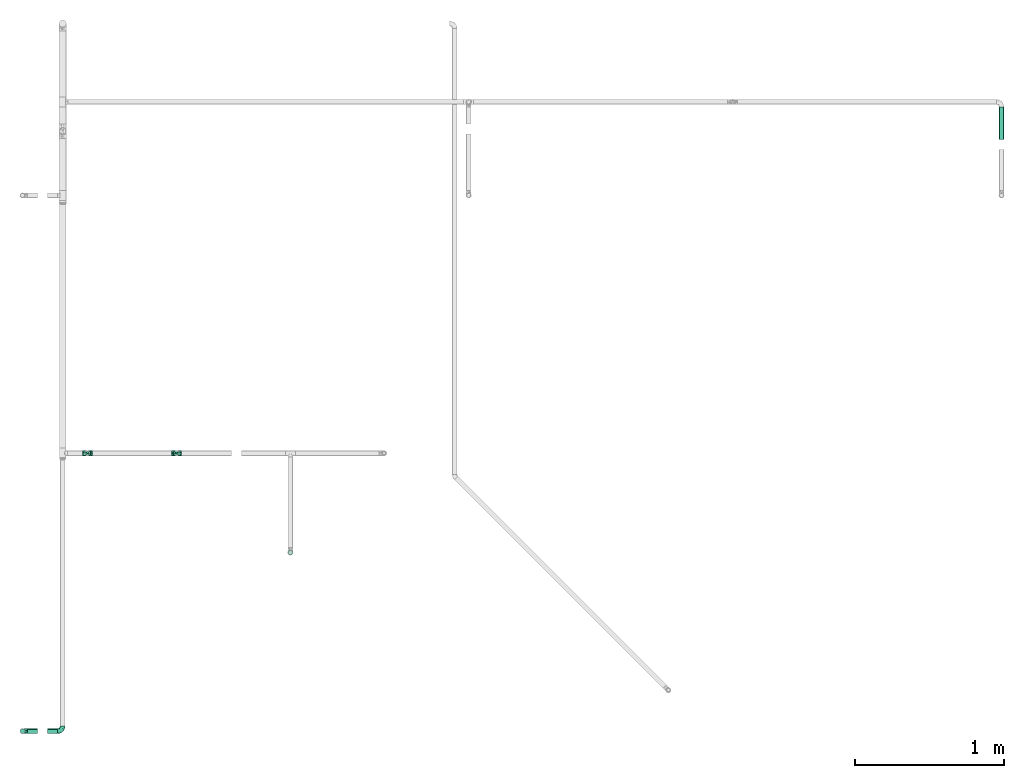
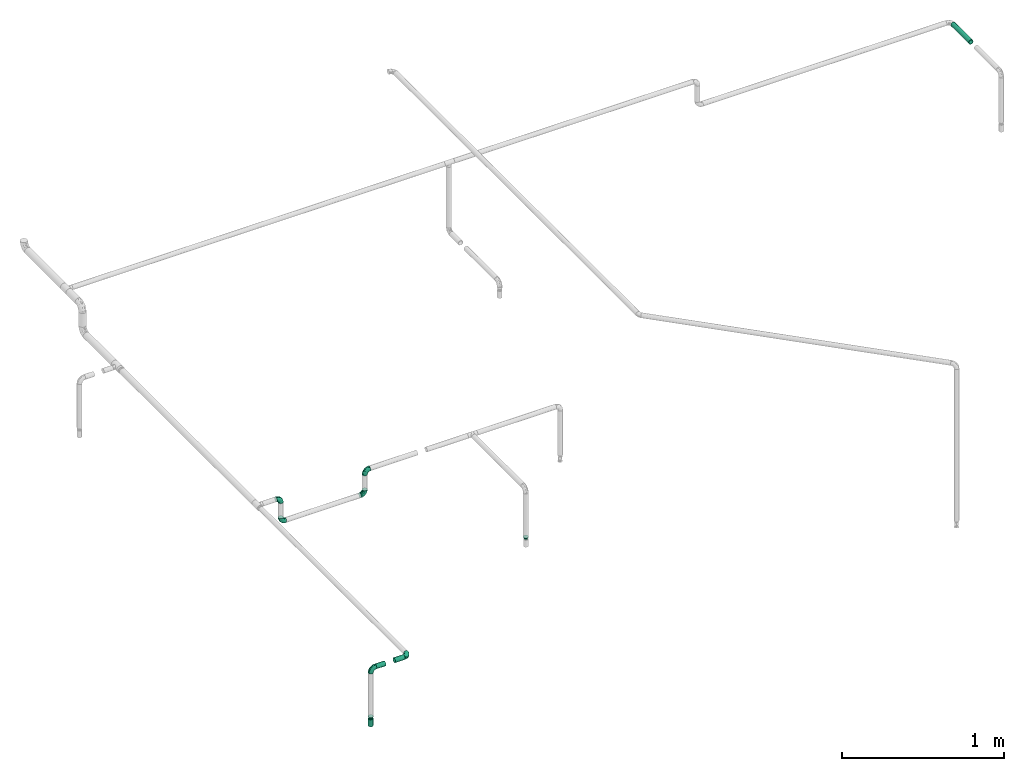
# One storey, part 7 of 17: 8 flow fittings, 3 flow segments, 1 flow terminal.
"""IFC2X3 building model written with IfcOpenShell, lengths in millimetres."""

from ifc_helpers import new_model, entity, si_unit, converted_unit, derived_unit, direction, frame, origin_with_axes, origin_2d_with_axis, place, context, subcontext, project, spatial, hollow_circle, extrude, open_shell, surface_model, source, transform, mapped, type_object, element, save


model = new_model("IFC2X3")

# Units and contexts
model_context = context("Model", 3, precision=0.01, world=frame((0.0, 4.29681676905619e-09, 0.0)), true_north=direction((4.01073788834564e-13, 1.0)))
plan_context = context("Plan", 3, precision=0.01, world=frame((0.0, 4.29681676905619e-09, 0.0)), true_north=direction((4.01073788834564e-13, 1.0)))
body_context = subcontext(model_context, "Body", "Model", "MODEL_VIEW")
ifc_project = project(units=[converted_unit("PLANEANGLEUNIT", "DEGREE", entity("IfcPositiveLengthMeasure", 0.0174532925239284), si_unit("PLANEANGLEUNIT", "RADIAN"), dimensions=[0, 0, 0, 0, 0, 0, 0]), si_unit("AREAUNIT", "SQUARE_METRE"), si_unit("LENGTHUNIT", "METRE", prefix="MILLI"), si_unit("MASSUNIT", "GRAM", prefix="KILO"), si_unit("POWERUNIT", "WATT"), si_unit("PRESSUREUNIT", "PASCAL", prefix="KILO"), si_unit("FORCEUNIT", "NEWTON", prefix="KILO"), si_unit("ELECTRICVOLTAGEUNIT", "VOLT"), si_unit("ELECTRICCURRENTUNIT", "AMPERE"), si_unit("THERMODYNAMICTEMPERATUREUNIT", "DEGREE_CELSIUS"), si_unit("TIMEUNIT", "SECOND"), si_unit("VOLUMEUNIT", "CUBIC_METRE"), derived_unit("LINEARVELOCITYUNIT", [(si_unit("LENGTHUNIT", "METRE"), 1), (si_unit("TIMEUNIT", "SECOND"), -1)]), derived_unit("VOLUMETRICFLOWRATEUNIT", [(si_unit("VOLUMEUNIT", "CUBIC_METRE"), 1), (si_unit("TIMEUNIT", "SECOND"), -1)]), derived_unit("THERMALTRANSMITTANCEUNIT", [(si_unit("POWERUNIT", "WATT"), 1), (si_unit("THERMODYNAMICTEMPERATUREUNIT", "KELVIN"), -1), (si_unit("AREAUNIT", "SQUARE_METRE"), -1)]), derived_unit("SOUNDPRESSUREUNIT", [(si_unit("PRESSUREUNIT", "PASCAL"), 1)])], contexts=[model_context, plan_context])

# Site, building, storey
site_placement = place(None, frame((0.0, -4.29681676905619e-09, 0.0), z_axis=(0.0, 0.0, 1.0), x_axis=(1.0, 0.0, 0.0)))
site = spatial("IfcSite", under=ifc_project, at=site_placement, CompositionType="ELEMENT")
building_placement = place(site_placement, frame((0.0, 4.29681676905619e-09, 0.0), z_axis=(0.0, 0.0, 1.0), x_axis=(1.0, 0.0, 0.0)))
building = spatial("IfcBuilding", under=site, at=building_placement, Name="mc-building", CompositionType="ELEMENT")
storey_placement = place(building_placement, frame((0.0, 0.0, 204000.0), z_axis=(0.0, 0.0, 1.0), x_axis=(1.0, 0.0, 0.0)))
storey = spatial("IfcBuildingStorey", under=building, at=storey_placement, Name="Nivå D", CompositionType="ELEMENT", Elevation=204000.0)

# Flow fittings
pipe_fitting_type_1 = type_object("IfcPipeFittingType", Name="magi_pipe_fe_elbow_short_001", PredefinedType="BEND")
shared_shape_1 = source(origin_with_axes(), body_context, "Body", "SurfaceModel", [
    surface_model("IfcShellBasedSurfaceModel", [(-33.8, 8.45, -14.63583), (-33.8, 4.37404, -16.32415), (-33.8, 11.9501, -11.9501), (-33.8, -11.9501, -11.9501), (-33.8, -14.63583, -8.45), (-33.8, -8.45, -14.63583), (-33.8, 0.0, -16.9), (-33.8, -4.37404, -16.32415), (-33.8, -4.37404, 16.32415), (-33.8, 0.0, 16.9), (-33.8, -8.45, 14.63583), (-33.8, 16.32415, -4.37404), (-33.8, 14.63583, -8.45), (-33.8, -16.32415, -4.37404), (-33.8, -16.9, 0.0), (-33.8, -16.32415, 4.37404), (-33.8, 11.9501, 11.9501), (-33.8, 14.63583, 8.45), (-33.8, 16.32415, 4.37404), (-33.8, 4.37404, 16.32415), (-33.8, 8.45, 14.63583), (-33.8, -14.63583, 8.45), (-33.8, -11.9501, 11.9501), (-33.8, 16.9, 0.0), (-11.9501, 33.8, -11.9501), (0.0, 33.8, -16.9), (-4.37404, 33.8, -16.32415), (-8.45, 33.8, -14.63583), (-14.63583, 33.8, -8.45), (-16.32415, 33.8, -4.37404), (14.63583, 33.8, -8.45), (8.45, 33.8, 14.63583), (16.32415, 33.8, -4.37404), (8.45, 33.8, -14.63583), (11.9501, 33.8, -11.9501), (4.37404, 33.8, -16.32415), (16.32415, 33.8, 4.37404), (16.9, 33.8, 0.0), (-11.9501, 33.8, 11.9501), (-16.32415, 33.8, 4.37404), (-14.63583, 33.8, 8.45), (-8.45, 33.8, 14.63583), (-4.37404, 33.8, 16.32415), (11.9501, 33.8, 11.9501), (14.63583, 33.8, 8.45), (0.0, 33.8, 16.9), (4.37404, 33.8, 16.32415), (-16.9, 33.8, 0.0), (-24.79389, -13.12945, 9.48721), (-22.19287, -9.75018, 12.59315), (-24.09897, -14.97035, 0.0), (-14.93934, -10.76256, 8.5297), (-22.46095, -14.75051, 5.27077), (14.75051, 22.46094, 5.27077), (11.9251, 13.23888, 4.33236), (13.04069, 14.39795, 0.0), (7.71387, 13.68847, 11.55891), (9.75018, 22.19287, 12.59315), (4.10169, 13.0571, 14.04018), (-24.84007, -6.39063, 15.2048), (-25.81779, -2.23879, 16.61097), (-23.66549, 2.59054, 16.87119), (-26.50418, 14.06512, 11.08152), (-24.21253, 17.66365, 7.72657), (-29.58514, 15.86957, 7.00283), (-6.17382, -7.5455, 0.0), (-13.23888, -11.9251, 4.33236), (-14.39795, -13.04069, 0.0), (-17.81434, 18.87373, 11.97104), (-6.30846, 29.15138, 15.82987), (-2.31622, 25.28002, 16.85849), (-29.23923, 10.23435, 13.77053), (-1.45439, -2.85688, 7.61475), (-0.28326, 0.34872, 10.09509), (-5.74484, -4.04709, 10.4122), (-4.41137, 11.31918, 16.59407), (-8.39727, 3.10034, 15.7812), (-1.72649, 9.1306, 15.53089), (-17.39909, 24.75344, 7.64977), (-26.19233, 20.0512, 0.0), (-28.14518, 17.29657, 4.25857), (-26.05147, 6.6281, 15.96447), (-5.87354, 16.61944, 16.86968), (-12.51807, 12.51807, 16.48937), (-10.06312, 7.38516, 16.81295), (-3.01882, 3.01882, 13.81718), (-13.0571, -4.10169, 14.04018), (-16.82553, -0.15166, 16.38038), (10.76256, 14.93934, 8.5297), (13.12945, 24.79389, 9.48721), (6.39063, 24.84007, 15.2048), (2.23879, 25.81779, 16.61097), (-13.68847, -7.71387, 11.55891), (14.97035, 24.09897, 0.0), (-7.30894, 22.89991, 16.09489), (-10.67958, 26.17414, 14.008), (-12.78295, 18.26924, 15.06066), (-13.88562, 22.45231, 12.93244), (-18.04944, 15.16501, 14.04434), (-23.11658, 20.08178, 4.02986), (-21.84989, 21.84989, 0.0), (-18.55817, 25.48277, 3.93065), (-13.95142, 26.94732, 11.03289), (-18.57098, 7.23906, 16.59756), (-16.58335, 4.14122, 16.89279), (-17.96666, 11.46709, 15.63151), (-9.84453, 17.54304, 16.18938), (0.15166, 16.82553, 16.38038), (-23.27207, 11.47201, 14.23154), (3.84842, 5.86994, 10.70473), (-8.0212, -7.54413, 7.93275), (1.00345, -2.19508, 4.57414), (5.13203, 3.01004, 5.90201), (5.24161, 1.7543, 2.53265), (8.70457, 7.04947, 3.99182), (-20.0512, 26.19233, 0.0), (8.4852, 8.76699, 7.09296), (-4.55488, -6.72064, 4.90681), (2.05031, -2.05031, 0.0), (7.5455, 6.17382, 0.0), (-26.75399, 2.1369, -16.845), (-14.61995, 24.73803, -11.27736), (-28.45274, -13.45335, -9.81895), (-26.00469, 6.63555, -15.96645), (-23.06726, 20.04573, -4.26202), (-13.80647, -4.26506, -14.17873), (-14.67501, -0.21081, -16.07388), (-6.7902, -0.2828, -13.8478), (-24.53586, 11.08096, -14.13417), (-26.72048, 14.00837, -11.05776), (10.0967, 24.44989, -12.75976), (5.83237, 21.40218, -15.03047), (6.66249, 28.54238, -15.38093), (-20.38182, 15.48705, -12.74596), (12.53268, 21.23441, -9.15363), (12.54494, 15.67504, -5.54878), (9.7522, 12.89279, -8.66343), (-15.65186, 19.64213, -13.01327), (-12.03528, 20.66498, -14.67665), (-15.61907, 15.61906, -14.83879), (-25.56551, -15.26206, 0.0), (-24.65452, -15.12934, -5.50955), (13.45335, 28.45274, -9.81895), (15.12934, 24.65452, -5.50955), (-7.35442, -8.31014, -5.65563), (-15.67504, -12.54494, -5.54878), (-24.44989, -10.0967, -12.75976), (0.16522, 0.41303, -9.71728), (-5.70658, -5.33066, -8.89288), (-5.13869, -2.37198, -11.53565), (-21.23441, -12.53268, -9.15363), (0.71146, 7.93863, -14.09382), (0.21081, 14.67501, -16.07388), (3.49291, 14.42772, -14.76381), (-24.89911, -2.13088, -16.591), (-28.54238, -6.66249, -15.38093), (-18.44386, -7.71663, -13.26957), (2.13088, 24.89911, -16.591), (-28.64342, 17.44413, -2.89318), (1.70017, -1.28722, -5.09504), (-16.57067, 26.81947, -7.36596), (-17.69055, 27.4263, -3.76405), (-12.89279, -9.7522, -8.66343), (-5.96611, 5.96611, -15.95814), (-20.53709, 20.09345, -8.28985), (-2.1369, 26.75399, -16.845), (-6.89872, 24.58781, -16.02578), (-10.60739, 26.53157, -13.98044), (-21.40218, -5.83237, -15.03047), (2.93192, 5.89627, -11.55917), (6.89393, 12.61842, -11.82233), (5.58056, 5.95325, -8.79455), (-3.99512, 18.61798, -16.89635), (8.31014, 7.35442, -5.65563), (-9.1383, 9.86148, -16.89041), (-9.99983, 16.02119, -16.39699), (-16.68576, 9.78031, -16.34199), (-27.01915, 16.61158, -7.12979), (15.26206, 25.56551, 0.0), (-18.61798, 3.99512, -16.89635), (-19.37495, 27.82495, 0.0), (-12.61842, -6.89393, -11.82233), (-18.84705, 19.14018, -10.96545)], [open_shell([[[0, 1, 2]], [[3, 4, 5]], [[6, 7, 5]], [[8, 9, 10]], [[1, 6, 2]], [[11, 12, 2]], [[4, 2, 6]], [[2, 13, 10]], [[5, 4, 6]], [[2, 4, 13]], [[14, 15, 13]], [[11, 2, 16]], [[11, 17, 18]], [[11, 16, 17]], [[19, 20, 16]], [[16, 2, 10]], [[19, 16, 10]], [[21, 22, 15]], [[22, 13, 15]], [[22, 10, 13]], [[10, 9, 19]], [[11, 18, 23]], [[24, 25, 26]], [[24, 26, 27]], [[24, 28, 29]], [[25, 24, 30]], [[31, 32, 24]], [[33, 30, 34]], [[33, 35, 25]], [[25, 30, 33]], [[32, 30, 24]], [[32, 36, 37]], [[38, 24, 29]], [[39, 40, 29]], [[40, 38, 29]], [[38, 41, 42]], [[38, 31, 24]], [[31, 38, 42]], [[36, 43, 44]], [[36, 32, 43]], [[31, 45, 46]], [[32, 31, 43]], [[42, 45, 31]], [[39, 29, 47]], [[22, 48, 49]], [[15, 14, 50]], [[51, 48, 52]], [[53, 54, 55]], [[48, 22, 21]], [[15, 52, 21]], [[56, 57, 58]], [[49, 10, 22]], [[49, 59, 10]], [[9, 60, 61]], [[62, 63, 64]], [[65, 66, 67]], [[57, 43, 31]], [[62, 68, 63]], [[42, 69, 70]], [[20, 71, 16]], [[8, 60, 9]], [[72, 73, 74]], [[75, 76, 77]], [[16, 62, 17]], [[40, 39, 78]], [[79, 23, 80]], [[64, 18, 17]], [[9, 61, 19]], [[19, 81, 20]], [[82, 83, 84]], [[74, 85, 86]], [[59, 86, 87]], [[88, 89, 57]], [[90, 31, 46]], [[44, 53, 36]], [[46, 45, 91]], [[54, 53, 88]], [[44, 89, 53]], [[92, 86, 49]], [[89, 44, 43]], [[10, 59, 8]], [[53, 55, 93]], [[93, 36, 53]], [[66, 52, 67]], [[94, 82, 70]], [[95, 96, 94]], [[97, 98, 96]], [[79, 99, 100]], [[41, 38, 95]], [[101, 100, 99]], [[68, 78, 63]], [[42, 41, 69]], [[23, 18, 80]], [[95, 94, 69]], [[78, 101, 99]], [[38, 102, 95]], [[70, 45, 42]], [[97, 95, 102]], [[15, 50, 52]], [[90, 57, 31]], [[57, 90, 58]], [[81, 19, 61]], [[103, 104, 84]], [[105, 81, 103]], [[38, 40, 102]], [[106, 96, 83]], [[94, 106, 82]], [[91, 70, 107]], [[71, 62, 16]], [[62, 108, 98]], [[86, 59, 49]], [[67, 52, 50]], [[60, 59, 87]], [[92, 49, 51]], [[86, 85, 76]], [[91, 90, 46]], [[37, 36, 93]], [[107, 77, 58]], [[107, 58, 90]], [[58, 85, 109]], [[110, 74, 92]], [[72, 74, 110]], [[66, 51, 52]], [[72, 111, 112]], [[113, 114, 112]], [[56, 88, 57]], [[52, 48, 21]], [[49, 48, 51]], [[57, 89, 43]], [[53, 89, 88]], [[103, 81, 61]], [[71, 81, 108]], [[18, 64, 80]], [[63, 78, 99]], [[47, 115, 101]], [[101, 115, 100]], [[40, 78, 102]], [[68, 102, 78]], [[97, 96, 95]], [[105, 98, 108]], [[103, 84, 83]], [[107, 70, 82]], [[76, 84, 87]], [[82, 84, 75]], [[70, 91, 45]], [[90, 91, 107]], [[59, 60, 8]], [[61, 60, 87]], [[73, 85, 74]], [[109, 112, 116]], [[103, 61, 104]], [[105, 103, 83]], [[96, 105, 83]], [[81, 105, 108]], [[96, 98, 105]], [[62, 98, 68]], [[61, 87, 104]], [[87, 84, 104]], [[86, 76, 87]], [[77, 76, 85]], [[58, 77, 85]], [[75, 77, 107]], [[82, 75, 107]], [[76, 75, 84]], [[81, 71, 20]], [[62, 71, 108]], [[95, 69, 41]], [[70, 69, 94]], [[62, 64, 17]], [[80, 63, 99]], [[63, 80, 64]], [[80, 99, 79]], [[66, 65, 117]], [[110, 66, 117]], [[112, 114, 116]], [[118, 117, 65]], [[110, 92, 51]], [[112, 111, 113]], [[119, 55, 54]], [[74, 86, 92]], [[58, 109, 56]], [[116, 56, 109]], [[66, 110, 51]], [[72, 110, 117]], [[111, 72, 117]], [[73, 112, 109]], [[117, 118, 111]], [[113, 111, 118]], [[118, 119, 113]], [[114, 119, 54]], [[119, 114, 113]], [[116, 54, 88]], [[54, 116, 114]], [[116, 88, 56]], [[112, 73, 72]], [[85, 73, 109]], [[78, 39, 101]], [[47, 101, 39]], [[102, 68, 97]], [[97, 68, 98]], [[82, 106, 83]], [[94, 96, 106]], [[1, 120, 6]], [[28, 24, 121]], [[3, 122, 4]], [[0, 123, 1]], [[100, 124, 79]], [[125, 126, 127]], [[128, 2, 129]], [[130, 131, 132]], [[128, 129, 133]], [[134, 135, 136]], [[137, 138, 139]], [[128, 0, 2]], [[67, 140, 141]], [[134, 142, 143]], [[141, 13, 4]], [[144, 65, 145]], [[146, 3, 5]], [[147, 148, 149]], [[145, 141, 150]], [[151, 152, 153]], [[154, 7, 6]], [[5, 155, 146]], [[150, 146, 156]], [[155, 5, 7]], [[143, 135, 134]], [[35, 157, 25]], [[23, 79, 158]], [[148, 159, 144]], [[160, 161, 29]], [[145, 162, 144]], [[163, 152, 151]], [[29, 28, 160]], [[121, 164, 160]], [[33, 34, 130]], [[25, 165, 26]], [[26, 165, 166]], [[142, 34, 30]], [[24, 27, 167]], [[124, 161, 164]], [[157, 35, 132]], [[155, 154, 168]], [[123, 0, 128]], [[169, 170, 171]], [[172, 157, 152]], [[26, 166, 27]], [[132, 35, 33]], [[142, 130, 34]], [[168, 154, 126]], [[136, 135, 173]], [[133, 137, 139]], [[2, 12, 129]], [[170, 131, 130]], [[30, 32, 143]], [[172, 174, 175]], [[176, 123, 128]], [[158, 177, 11]], [[135, 55, 119]], [[167, 27, 166]], [[175, 166, 172]], [[137, 167, 138]], [[122, 141, 4]], [[140, 14, 13]], [[32, 37, 178]], [[170, 130, 134]], [[152, 157, 131]], [[165, 157, 172]], [[153, 170, 151]], [[152, 163, 174]], [[168, 125, 156]], [[122, 146, 150]], [[120, 154, 6]], [[179, 174, 126]], [[179, 126, 154]], [[126, 163, 127]], [[162, 145, 150]], [[140, 13, 141]], [[32, 178, 143]], [[55, 143, 178]], [[177, 129, 12]], [[128, 133, 139]], [[176, 128, 139]], [[120, 123, 179]], [[121, 160, 28]], [[161, 100, 180]], [[166, 175, 138]], [[121, 24, 167]], [[161, 47, 29]], [[79, 124, 158]], [[124, 164, 177]], [[161, 124, 100]], [[136, 171, 170]], [[127, 163, 151]], [[147, 171, 159]], [[148, 144, 162]], [[127, 151, 169]], [[127, 181, 125]], [[129, 177, 164]], [[12, 11, 177]], [[159, 65, 144]], [[67, 141, 145]], [[143, 55, 135]], [[135, 119, 173]], [[123, 120, 1]], [[154, 120, 179]], [[157, 165, 25]], [[166, 165, 172]], [[172, 152, 174]], [[176, 139, 175]], [[126, 174, 163]], [[176, 174, 179]], [[174, 176, 175]], [[123, 176, 179]], [[150, 181, 162]], [[127, 149, 181]], [[181, 148, 162]], [[159, 148, 147]], [[171, 136, 173]], [[170, 134, 136]], [[159, 171, 173]], [[171, 147, 169]], [[169, 147, 149]], [[151, 170, 169]], [[164, 182, 129]], [[182, 121, 137]], [[181, 149, 148]], [[169, 149, 127]], [[182, 137, 133]], [[167, 137, 121]], [[166, 138, 167]], [[175, 139, 138]], [[129, 182, 133]], [[121, 182, 164]], [[161, 160, 164]], [[47, 161, 180]], [[177, 158, 124]], [[23, 158, 11]], [[130, 132, 33]], [[157, 132, 131]], [[143, 142, 30]], [[130, 142, 134]], [[154, 155, 7]], [[146, 155, 168]], [[146, 122, 3]], [[141, 122, 150]], [[152, 131, 153]], [[159, 119, 118]], [[67, 145, 65]], [[170, 153, 131]], [[119, 159, 173]], [[159, 118, 65]], [[156, 125, 181]], [[126, 125, 168]], [[150, 156, 181]], [[168, 156, 146]]])]),
])
for number, where, z_axis, x_axis, name in (
    (1, (595974.5, 400450.01942, 2780.0), (0.0, 1.0, 0.0), (0.0, 0.0, 1.0), "magi_pipe_fe_elbow_short_001"),
    (2, (596244.66498, 400450.01942, 2780.0), (0.0, 0.0, 1.0), (1.0, 0.0, 0.0), "magi_pipe_fe_elbow_short_001"),
    (3, (596410.01498, 402317.53152, 2780.0), (0.0, 1.0, 0.0), (1.0, 0.0, 0.0), "magi_pipe_fe_elbow_short_001"),
    (4, (596410.01498, 402317.53152, 2600.0), (0.0, -1.0, 0.0), (0.0, 0.0, -1.0), "magi_pipe_fe_elbow_short_001"),
    (5, (597010.01498, 402317.53152, 2600.0), (0.0, 1.0, 0.0), (0.0, 0.0, -1.0), "magi_pipe_fe_elbow_short_001"),
    (6, (597010.01498, 402317.53152, 2780.0), (0.0, -1.0, 0.0), (-1.0, 0.0, 0.0), "magi_pipe_fe_elbow_short_001"),
):
    element("IfcFlowFitting", number, at=place(storey_placement, frame(where, z_axis=z_axis, x_axis=x_axis)), inside=storey, type_object=pipe_fitting_type_1, Name=name, context=body_context, shape_type="MappedRepresentation", body=[
        mapped(shared_shape_1, transform((0.0, 0.0, 0.0), scale=1.0)),
    ])
pipe_fitting_type_2 = type_object("IfcPipeFittingType", Name="magi_pipe_fe_reducer_centric_short_NOR", PredefinedType="TRANSITION")
shared_shape_2 = source(origin_with_axes(), body_context, "Body", "SurfaceModel", [
    surface_model("IfcShellBasedSurfaceModel", [(-2.0, -7.56604, -7.56604), (-2.0, -10.33541, -2.76936), (-2.0, -5.35, -9.26647), (-2.0, 5.35, -9.26647), (-2.0, 10.33541, -2.76936), (-2.0, 7.56604, -7.56604), (12.4, 11.9501, 11.9501), (12.4, 0.0, 16.9), (12.4, 11.9501, -11.9501), (12.4, 16.9, 0.0), (0.0, -10.7, 0.0), (0.0, -5.35, 9.26647), (0.0, -5.35, -9.26647), (0.0, 10.7, 0.0), (12.4, 15.66253, -2.98753), (12.4, 8.96258, -13.18758), (0.0, 6.6875, -6.94985), (12.4, -15.66253, -2.98753), (12.4, -16.9, 0.0), (12.4, 5.97505, -14.42505), (0.0, 5.35, -9.26647), (12.4, 14.42505, -5.97505), (0.0, 8.025, -4.63324), (0.0, 9.3625, -2.31662), (0.0, -9.3625, -2.31662), (0.0, -8.025, -4.63324), (12.4, -14.42505, -5.97505), (12.4, 13.18758, -8.96258), (12.4, -13.18758, -8.96258), (12.4, -11.9501, -11.9501), (0.0, -6.6875, -6.94985), (12.4, -8.96258, -13.18758), (12.4, -5.97505, -14.42505), (12.4, -15.66253, 2.98753), (12.4, -8.96258, 13.18758), (0.0, -6.6875, 6.94985), (12.4, -11.9501, 11.9501), (12.4, 15.66253, 2.98753), (12.4, -5.97505, 14.42505), (12.4, -14.42505, 5.97505), (0.0, -8.025, 4.63324), (0.0, -9.3625, 2.31662), (0.0, 9.3625, 2.31662), (0.0, 8.025, 4.63324), (12.4, 14.42505, 5.97505), (12.4, -13.18758, 8.96258), (12.4, 13.18758, 8.96258), (0.0, 6.6875, 6.94985), (12.4, 8.96258, 13.18758), (0.0, 5.35, 9.26647), (12.4, 5.97505, 14.42505), (14.4, 4.37404, -16.32415), (14.4, 8.45, -14.63583), (14.4, 11.9501, -11.9501), (14.4, -8.45, -14.63583), (14.4, 16.32415, -4.37404), (14.4, 16.32415, 4.37404), (14.4, 14.63583, -8.45), (14.4, 0.0, -16.9), (14.4, -4.37404, -16.32415), (14.4, -11.9501, -11.9501), (14.4, -16.32415, -4.37404), (14.4, -14.63583, -8.45), (14.4, -16.32415, 4.37404), (14.4, 16.9, 0.0), (14.4, 14.63583, 8.45), (14.4, 11.9501, 11.9501), (14.4, 4.37404, 16.32415), (14.4, 8.45, 14.63583), (14.4, 0.0, 16.9), (14.4, -14.63583, 8.45), (14.4, -16.9, 0.0), (14.4, -8.45, 14.63583), (14.4, -11.9501, 11.9501), (14.4, -4.37404, 16.32415), (12.4, 4.37404, 16.32415), (12.4, -14.63583, 8.45), (12.4, 16.32415, 4.37404), (12.4, 8.45, 14.63583), (12.4, 14.63583, 8.45), (12.4, -8.45, 14.63583), (12.4, -4.37404, 16.32415), (12.4, -16.32415, 4.37404), (12.4, -16.32415, -4.37404), (12.4, -8.45, -14.63583), (12.4, 16.32415, -4.37404), (12.4, 14.63583, -8.45), (12.4, 8.45, -14.63583), (12.4, 4.37404, -16.32415), (12.4, 0.0, -16.9), (12.4, -14.63583, -8.45), (12.4, -4.37404, -16.32415), (-2.0, 2.76936, 10.33541), (-2.0, 0.0, 10.7), (-2.0, 5.35, 9.26647), (-2.0, 7.56604, 7.56604), (-2.0, 9.26647, 5.35), (-2.0, 10.33541, 2.76936), (-2.0, -10.33541, 2.76936), (-2.0, -2.76936, 10.33541), (-2.0, -7.56604, 7.56604), (-2.0, -5.35, 9.26647), (-2.0, -9.26647, 5.35), (-2.0, -10.7, 0.0), (-2.0, 9.26647, -5.35), (-2.0, 2.76936, -10.33541), (-2.0, -9.26647, -5.35), (-2.0, 0.0, -10.7), (-2.0, -2.76936, -10.33541), (-2.0, 10.7, 0.0), (0.0, 0.0, -10.7), (0.0, 2.76936, -10.33541), (0.0, 10.33541, -2.76936), (0.0, 7.56604, -7.56604), (0.0, -10.33541, -2.76936), (0.0, 9.26647, -5.35), (0.0, 0.0, 10.7), (0.0, -2.76936, -10.33541), (0.0, -7.56604, -7.56604), (0.0, -9.26647, -5.35), (0.0, 10.33541, 2.76936), (0.0, 9.26647, 5.35), (0.0, 7.56604, 7.56604), (0.0, 2.76936, 10.33541), (0.0, -7.56604, 7.56604), (0.0, -10.33541, 2.76936), (0.0, -9.26647, 5.35), (0.0, -2.76936, 10.33541), (0.0, 2.675, -9.26647), (0.0, -2.675, -9.26647), (12.4, 2.98753, -15.66253), (0.0, 0.0, -9.26647), (12.4, -2.98753, -15.66253), (0.0, -2.675, 9.26647), (0.0, 2.675, 9.26647), (12.4, -2.98753, 15.66253), (0.0, 0.0, 9.26647), (12.4, 2.98753, 15.66253)], [open_shell([[[0, 1, 2]], [[3, 4, 5]], [[6, 7, 8]], [[8, 9, 6]], [[10, 11, 12]], [[13, 9, 14]], [[15, 16, 8]], [[17, 18, 10]], [[15, 19, 20]], [[21, 22, 23]], [[24, 25, 26]], [[22, 21, 27]], [[28, 26, 25]], [[29, 30, 31]], [[12, 32, 31]], [[10, 18, 33]], [[34, 35, 36]], [[37, 9, 13]], [[34, 38, 11]], [[39, 40, 41]], [[42, 43, 44]], [[40, 39, 45]], [[46, 44, 43]], [[6, 47, 48]], [[49, 50, 48]], [[51, 52, 53]], [[54, 51, 53]], [[53, 55, 56]], [[55, 53, 57]], [[53, 56, 54]], [[58, 54, 59]], [[58, 51, 54]], [[60, 61, 62]], [[61, 60, 54]], [[54, 63, 61]], [[56, 55, 64]], [[56, 65, 66]], [[56, 66, 67]], [[67, 63, 54]], [[67, 66, 68]], [[63, 67, 69]], [[69, 70, 63]], [[71, 61, 63]], [[70, 72, 73]], [[70, 69, 72]], [[72, 69, 74]], [[54, 56, 67]], [[75, 76, 7]], [[77, 75, 78]], [[6, 79, 77]], [[6, 77, 78]], [[76, 75, 77]], [[80, 76, 36]], [[80, 81, 7]], [[7, 76, 80]], [[82, 76, 77]], [[82, 83, 18]], [[82, 77, 84]], [[77, 85, 8]], [[8, 85, 86]], [[8, 87, 88]], [[84, 77, 8]], [[88, 89, 8]], [[83, 29, 90]], [[29, 83, 84]], [[84, 89, 91]], [[83, 82, 84]], [[8, 89, 84]], [[85, 77, 9]], [[83, 61, 18]], [[90, 62, 83]], [[54, 29, 84]], [[90, 29, 60]], [[59, 84, 91]], [[83, 62, 61]], [[61, 71, 18]], [[59, 54, 84]], [[60, 29, 54]], [[60, 62, 90]], [[58, 59, 91]], [[91, 89, 58]], [[88, 51, 89]], [[87, 52, 88]], [[57, 8, 86]], [[87, 8, 53]], [[55, 86, 85]], [[87, 53, 52]], [[52, 51, 88]], [[64, 55, 85]], [[57, 86, 55]], [[57, 53, 8]], [[9, 64, 85]], [[89, 51, 58]], [[77, 56, 9]], [[79, 65, 77]], [[68, 6, 78]], [[79, 6, 66]], [[67, 78, 75]], [[77, 65, 56]], [[56, 64, 9]], [[67, 68, 78]], [[66, 6, 68]], [[66, 65, 79]], [[69, 67, 75]], [[75, 7, 69]], [[81, 74, 7]], [[80, 72, 81]], [[70, 36, 76]], [[80, 36, 73]], [[63, 76, 82]], [[80, 73, 72]], [[72, 74, 81]], [[71, 63, 82]], [[70, 76, 63]], [[70, 73, 36]], [[18, 71, 82]], [[7, 74, 69]], [[92, 1, 93]], [[94, 1, 92]], [[95, 96, 97]], [[95, 97, 94]], [[98, 93, 1]], [[99, 100, 101]], [[99, 93, 100]], [[100, 98, 102]], [[93, 98, 100]], [[98, 1, 103]], [[94, 97, 1]], [[1, 97, 4]], [[5, 4, 104]], [[4, 3, 1]], [[105, 1, 3]], [[1, 0, 106]], [[2, 107, 108]], [[2, 1, 105]], [[105, 107, 2]], [[4, 97, 109]], [[20, 110, 111]], [[112, 20, 113]], [[114, 20, 112]], [[112, 113, 115]], [[116, 114, 112]], [[110, 12, 117]], [[110, 20, 12]], [[118, 114, 119]], [[114, 118, 12]], [[20, 114, 12]], [[112, 13, 120]], [[120, 121, 122]], [[120, 122, 123]], [[116, 112, 123]], [[123, 122, 49]], [[116, 124, 114]], [[125, 124, 126]], [[10, 114, 125]], [[124, 127, 11]], [[125, 114, 124]], [[127, 124, 116]], [[123, 112, 120]], [[1, 114, 103]], [[106, 119, 1]], [[12, 0, 2]], [[106, 0, 118]], [[117, 2, 108]], [[1, 119, 114]], [[114, 10, 103]], [[117, 12, 2]], [[118, 0, 12]], [[118, 119, 106]], [[110, 117, 108]], [[108, 107, 110]], [[105, 111, 107]], [[3, 20, 105]], [[115, 5, 104]], [[3, 5, 113]], [[112, 104, 4]], [[3, 113, 20]], [[20, 111, 105]], [[13, 112, 4]], [[115, 104, 112]], [[115, 113, 5]], [[109, 13, 4]], [[107, 111, 110]], [[97, 120, 109]], [[96, 121, 97]], [[49, 95, 94]], [[96, 95, 122]], [[123, 94, 92]], [[97, 121, 120]], [[120, 13, 109]], [[123, 49, 94]], [[122, 95, 49]], [[122, 121, 96]], [[116, 123, 92]], [[92, 93, 116]], [[99, 127, 93]], [[101, 11, 99]], [[126, 100, 102]], [[101, 100, 124]], [[125, 102, 98]], [[101, 124, 11]], [[11, 127, 99]], [[10, 125, 98]], [[126, 102, 125]], [[126, 124, 100]], [[103, 10, 98]], [[93, 127, 116]], [[18, 7, 36]], [[18, 29, 8]], [[89, 8, 29]], [[18, 8, 7]], [[13, 11, 49]], [[13, 20, 12]], [[13, 12, 11]], [[24, 26, 17]], [[10, 24, 17]], [[16, 15, 20]], [[30, 12, 31]], [[23, 14, 21]], [[19, 128, 20]], [[27, 8, 16]], [[32, 12, 129]], [[30, 28, 25]], [[130, 131, 128]], [[129, 132, 32]], [[16, 22, 27]], [[13, 14, 23]], [[128, 19, 130]], [[130, 89, 131]], [[131, 132, 129]], [[89, 132, 131]], [[28, 30, 29]], [[42, 44, 37]], [[13, 42, 37]], [[35, 34, 11]], [[47, 49, 48]], [[41, 33, 39]], [[38, 133, 11]], [[45, 36, 35]], [[50, 49, 134]], [[47, 46, 43]], [[135, 136, 133]], [[134, 137, 50]], [[35, 40, 45]], [[10, 33, 41]], [[133, 38, 135]], [[135, 7, 136]], [[136, 137, 134]], [[7, 137, 136]], [[46, 47, 6]]])]),
])
for number, where, z_axis, x_axis, name in (
    (7, (595974.5, 400450.01942, 2403.04800000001), (0.0, -1.0, 0.0), (0.0, 0.0, 1.0), "magi_pipe_fe_reducer_centric_short_NOR"),
    (8, (597774.5, 401650.01942, 2400.0), (0.0, -1.0, 0.0), (0.0, 0.0, 1.0), "magi_pipe_fe_reducer_centric_short_NOR"),
):
    element("IfcFlowFitting", number, at=place(storey_placement, frame(where, z_axis=z_axis, x_axis=x_axis)), inside=storey, type_object=pipe_fitting_type_2, Name=name, context=body_context, shape_type="MappedRepresentation", body=[
        mapped(shared_shape_2, transform((0.0, 0.0, 0.0), scale=1.0)),
    ])

# Flow segments
pipe_segment_type = type_object("IfcPipeSegmentType", Name="Stålrør normaltykke", PredefinedType="RIGIDSEGMENT")
shared_shape_3 = source(origin_with_axes(), body_context, "Body", "SweptSolid", [
    extrude(hollow_circle(Radius=16.9, WallThickness=2.0, at=origin_2d_with_axis()), frame((0.0, 0.0, 0.0), z_axis=(1.0, 0.0, 0.0), x_axis=(0.0, 1.0, 0.0)), (0.0, 0.0, 1.0), 69.0),
])
flow_segment_1_placement = place(storey_placement, frame((596141.8663, 400450.01942, 2780.0), z_axis=(0.0, 0.0, 1.0), x_axis=(1.0, 0.0, 0.0)))
element("IfcFlowSegment", 9, at=flow_segment_1_placement, inside=storey, type_object=pipe_segment_type, Name="Stålrør normaltykke", context=body_context, shape_type="MappedRepresentation", body=[
    mapped(shared_shape_3, transform((0.0, 0.0, 0.0), scale=1.0)),
])
shared_shape_4 = source(origin_with_axes(), body_context, "Body", "SweptSolid", [
    extrude(hollow_circle(Radius=16.9, WallThickness=2.0, at=origin_2d_with_axis()), frame((0.0, 0.0, 0.0), z_axis=(1.0, 0.0, 0.0), x_axis=(0.0, 1.0, 0.0)), (0.0, 0.0, 1.0), 219.8),
])
flow_segment_2_placement = place(storey_placement, frame((602552.91449, 404425.06037, 2790.0), z_axis=(0.0, 0.0, 1.0), x_axis=(0.0, 1.0, 0.0)))
element("IfcFlowSegment", 10, at=flow_segment_2_placement, inside=storey, type_object=pipe_segment_type, Name="Stålrør normaltykke", context=body_context, shape_type="MappedRepresentation", body=[
    mapped(shared_shape_4, transform((0.0, 0.0, 0.0), scale=1.0)),
])
shared_shape_5 = source(origin_with_axes(), body_context, "Body", "SweptSolid", [
    extrude(hollow_circle(Radius=16.9, WallThickness=2.0, at=origin_2d_with_axis()), frame((0.0, 0.0, 0.0), z_axis=(1.0, 0.0, 0.0), x_axis=(0.0, 1.0, 0.0)), (0.0, 0.0, 1.0), 66.5),
])
flow_segment_3_placement = place(storey_placement, frame((596008.3, 400450.01942, 2780.0), z_axis=(0.0, 0.0, 1.0), x_axis=(1.0, 0.0, 0.0)))
element("IfcFlowSegment", 11, at=flow_segment_3_placement, inside=storey, type_object=pipe_segment_type, Name="Stålrør normaltykke", context=body_context, shape_type="MappedRepresentation", body=[
    mapped(shared_shape_5, transform((0.0, 0.0, 0.0), scale=1.0)),
])

# Flow terminal
fire_suppression_terminal_type = type_object("IfcFireSuppressionTerminalType", Name="SP-15-K80-68DGR-STD", PredefinedType="NOTDEFINED")
shared_shape_6 = source(origin_with_axes(), body_context, "Body", "SurfaceModel", [
    surface_model("IfcShellBasedSurfaceModel", [(4.1411, -15.45481, 53.0), (8.0, -13.85641, 53.0), (11.31371, -11.31371, 53.0), (-8.0, -13.85641, 53.0), (15.45481, -4.1411, 53.0), (16.0, 0.0, 53.0), (13.85641, -8.0, 53.0), (0.0, -16.0, 53.0), (-4.1411, -15.45481, 53.0), (-13.85641, -8.0, 53.0), (-11.31371, -11.31371, 53.0), (-15.45481, -4.1411, 53.0), (15.45481, 4.1411, 53.0), (13.85641, 8.0, 53.0), (11.31371, 11.31371, 53.0), (-4.1411, 15.45481, 53.0), (8.0, 13.85641, 53.0), (4.1411, 15.45481, 53.0), (0.0, 16.0, 53.0), (-13.85641, 8.0, 53.0), (-15.45481, 4.1411, 53.0), (-16.0, 0.0, 53.0), (-11.31371, 11.31371, 53.0), (-8.0, 13.85641, 53.0), (0.0, 16.0, 0.0), (4.1411, 15.45481, 0.0), (8.0, 13.85641, 0.0), (-4.1411, 15.45481, 0.0), (11.31371, 11.31371, 0.0), (13.85641, 8.0, 0.0), (15.45481, 4.1411, 0.0), (-15.45481, -4.1411, 0.0), (-11.31371, 11.31371, 0.0), (-8.0, 13.85641, 0.0), (-13.85641, 8.0, 0.0), (-15.45481, 4.1411, 0.0), (-16.0, 0.0, 0.0), (4.1411, -15.45481, 0.0), (16.0, 0.0, 0.0), (15.45481, -4.1411, 0.0), (13.85641, -8.0, 0.0), (11.31371, -11.31371, 0.0), (8.0, -13.85641, 0.0), (-8.0, -13.85641, 0.0), (-13.85641, -8.0, 0.0), (-11.31371, -11.31371, 0.0), (0.0, -16.0, 0.0), (-4.1411, -15.45481, 0.0)], [open_shell([[[0, 1, 2]], [[3, 0, 2]], [[4, 5, 2]], [[4, 2, 6]], [[3, 2, 5]], [[7, 3, 8]], [[7, 0, 3]], [[3, 9, 10]], [[9, 3, 11]], [[5, 11, 3]], [[5, 12, 11]], [[12, 13, 14]], [[15, 12, 14]], [[16, 17, 18]], [[14, 16, 15]], [[18, 15, 16]], [[11, 19, 20]], [[21, 11, 20]], [[22, 15, 23]], [[15, 22, 19]], [[19, 11, 15]], [[11, 12, 15]], [[24, 25, 26]], [[27, 24, 26]], [[28, 29, 30]], [[27, 26, 28]], [[27, 28, 31]], [[27, 32, 33]], [[32, 27, 34]], [[34, 31, 35]], [[31, 34, 27]], [[35, 31, 36]], [[28, 30, 31]], [[37, 38, 39]], [[37, 39, 40]], [[41, 42, 37]], [[41, 37, 40]], [[38, 37, 43]], [[44, 43, 45]], [[43, 44, 31]], [[43, 46, 47]], [[43, 31, 38]], [[37, 46, 43]], [[38, 31, 30]], [[11, 31, 44]], [[45, 9, 44]], [[3, 43, 47]], [[45, 43, 10]], [[8, 47, 46]], [[31, 21, 36]], [[31, 11, 21]], [[44, 9, 11]], [[45, 10, 9]], [[3, 10, 43]], [[47, 8, 3]], [[46, 7, 8]], [[0, 37, 42]], [[41, 1, 42]], [[6, 40, 39]], [[41, 40, 2]], [[4, 39, 38]], [[37, 0, 7]], [[42, 1, 0]], [[41, 2, 1]], [[40, 6, 2]], [[4, 6, 39]], [[38, 5, 4]], [[37, 7, 46]], [[12, 38, 30]], [[13, 30, 29]], [[16, 26, 25]], [[17, 25, 24]], [[30, 13, 12]], [[12, 5, 38]], [[28, 14, 13]], [[28, 26, 14]], [[14, 26, 16]], [[25, 17, 16]], [[28, 13, 29]], [[24, 18, 17]], [[15, 27, 33]], [[32, 23, 33]], [[19, 34, 35]], [[32, 34, 22]], [[20, 35, 36]], [[27, 15, 18]], [[33, 23, 15]], [[32, 22, 23]], [[34, 19, 22]], [[20, 19, 35]], [[36, 21, 20]], [[27, 18, 24]]])]),
])
flow_terminal_placement = place(storey_placement, frame((595974.5, 400450.01942, 2400.0), z_axis=(0.0, 0.0, -1.0), x_axis=(1.0, 0.0, 0.0)))
element("IfcFlowTerminal", 12, at=flow_terminal_placement, inside=storey, type_object=fire_suppression_terminal_type, Name="SP-15-K80-68DGR-STD", context=body_context, shape_type="MappedRepresentation", body=[
    mapped(shared_shape_6, transform((0.0, 0.0, 0.0), scale=1.0)),
])

save(model, "model.ifc")
